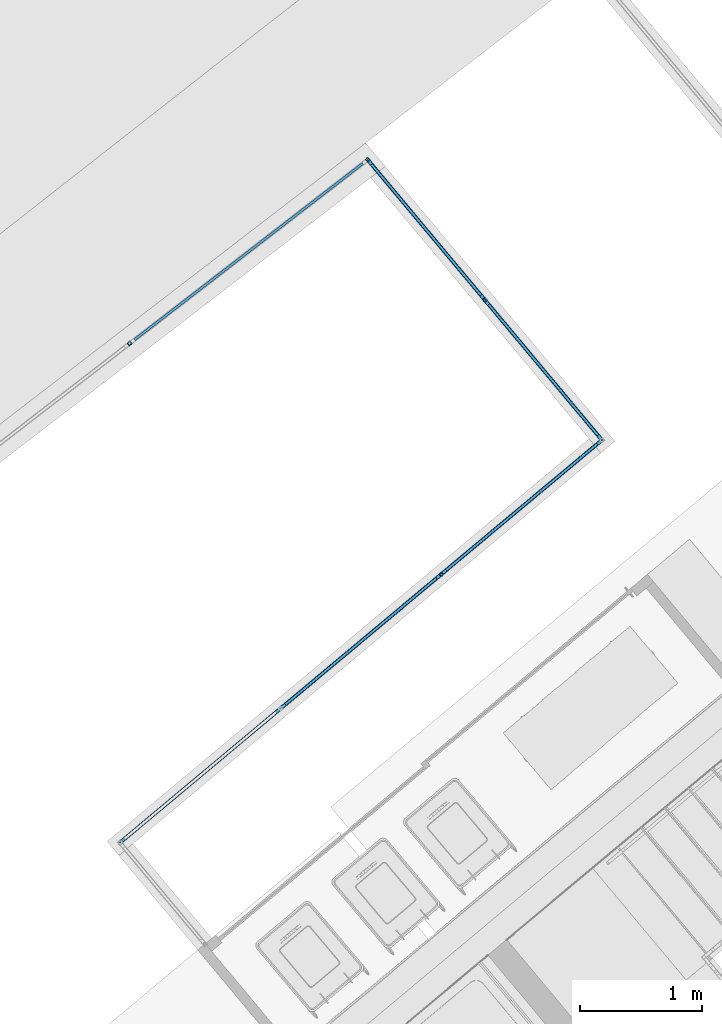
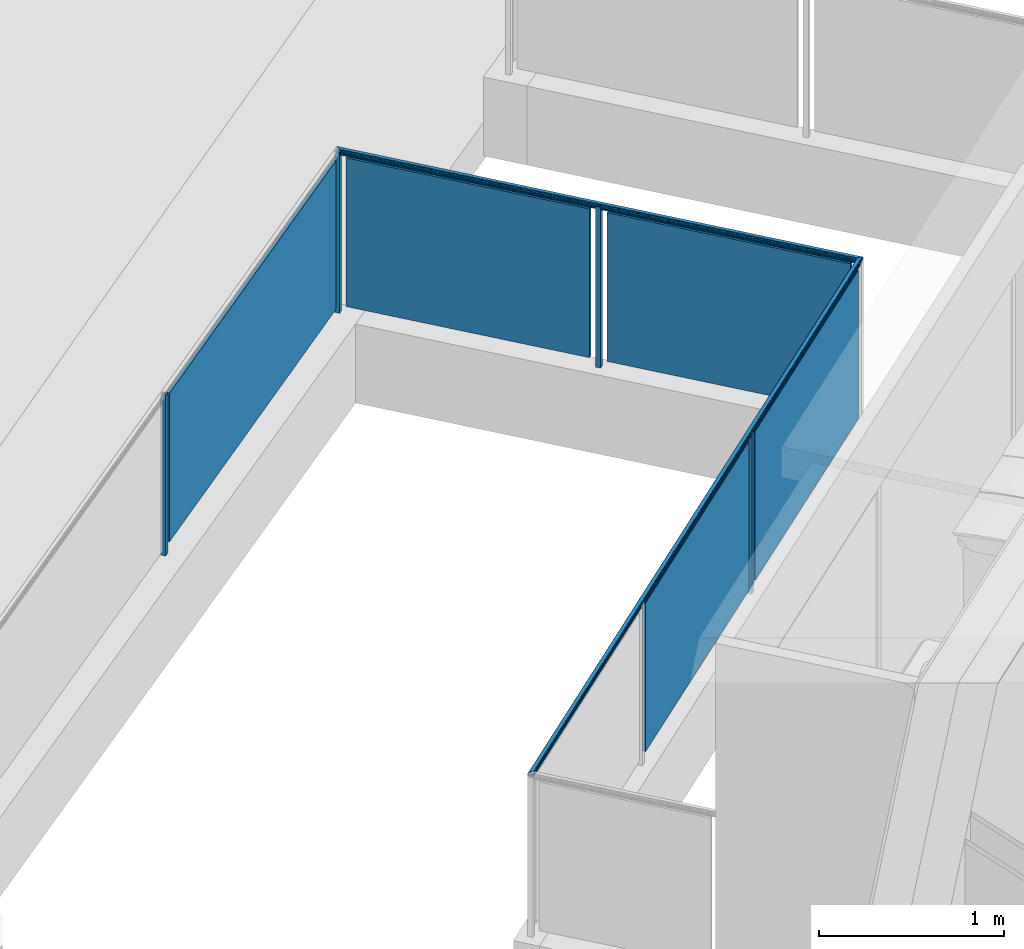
# One storey, part 31 of 75: 11 building element parts, 1 element without a shape of its own.
"""IFC4 building model written with IfcOpenShell, lengths in metres."""

import ifcopenshell
import ifcopenshell.guid

model = None  # the IFC model being written
_history = None  # IfcOwnerHistory: only IFC2X3 demands one
_inside = {}  # id of a spatial element -> (the spatial element, [elements in it])
_under = {}  # id of a project, library or spatial element -> (it, [spatial elements below it])
_declared = {}  # id of a project -> (the project, [libraries it declares])
_typed = {}  # id of a type object -> (the type object, [elements of that type])
_made_of = {}  # id of a material, layer set ... -> (it, [elements and type objects made of it])


def new_model(schema):
    """Start an empty IFC model of exactly this schema.

    Asked for "IFC4X3", IfcOpenShell would pick the latest addendum, in which some entities
    have other attributes; the version numbers below select the first issue.
    IFC2X3 requires an IfcOwnerHistory on every rooted entity: one is made here for all.
    """
    global model, _history
    if schema == "IFC4X3":
        model = ifcopenshell.file(schema_version=(4, 3, 0, 0))
    else:
        model = ifcopenshell.file(schema=schema)
    _inside.clear()
    _under.clear()
    _declared.clear()
    _typed.clear()
    _made_of.clear()
    _history = None
    if model.schema == "IFC2X3":
        org = make("IfcOrganization", Name="unknown")
        user = make(
            "IfcPersonAndOrganization",
            ThePerson=make("IfcPerson", FamilyName="unknown"),
            TheOrganization=org,
        )
        app = make(
            "IfcApplication",
            ApplicationDeveloper=org,
            Version="unknown",
            ApplicationFullName="unknown",
            ApplicationIdentifier="unknown",
        )
        _history = make(
            "IfcOwnerHistory",
            OwningUser=user,
            OwningApplication=app,
            ChangeAction="ADDED",
            CreationDate=0,
        )
    return model


def make(cls, **values):
    """One entity of the class cls with the attributes given. An attribute that is None is left unset."""
    return model.create_entity(
        cls, **{name: value for name, value in values.items() if value is not None}
    )


def entity(cls, *values):
    """Any entity or typed value of the class cls, its attributes in the order of the schema. None: left unset."""
    e = model.create_entity(cls)
    for i, value in enumerate(values):
        if value is not None:
            e[i] = value
    return e


def rooted(cls, **values):
    """An entity with a GlobalId (a new one), such as an element, a storey or a relation."""
    return make(cls, GlobalId=ifcopenshell.guid.new(), OwnerHistory=_history, **values)


def si_unit(unit_type, name, prefix=None):
    """IfcSIUnit, for example si_unit("LENGTHUNIT", "METRE", prefix="MILLI")."""
    return make("IfcSIUnit", UnitType=unit_type, Prefix=prefix, Name=name)


def converted_unit(unit_type, name, factor, base, dimensions=None, offset=None):
    """IfcConversionBasedUnit, such as the inch: factor (a typed value) times the base unit."""
    return make(
        "IfcConversionBasedUnit"
        if offset is None
        else "IfcConversionBasedUnitWithOffset",
        ConversionOffset=offset,
        Dimensions=None
        if dimensions is None
        else entity("IfcDimensionalExponents", *dimensions),
        UnitType=unit_type,
        Name=name,
        ConversionFactor=make(
            "IfcMeasureWithUnit", ValueComponent=factor, UnitComponent=base
        ),
    )


def derived_unit(unit_type, elements):
    """IfcDerivedUnit: a product of units, each with its exponent."""
    return make(
        "IfcDerivedUnit",
        Elements=[
            make("IfcDerivedUnitElement", Unit=unit, Exponent=power)
            for unit, power in elements
        ],
        UnitType=unit_type,
    )


def assignment(units):
    """IfcUnitAssignment: the units of a project."""
    return None if units is None else make("IfcUnitAssignment", Units=units)


def point(xyz):
    """IfcCartesianPoint."""
    return None if xyz is None else make("IfcCartesianPoint", Coordinates=xyz)


def direction(xyz):
    """IfcDirection."""
    return None if xyz is None else make("IfcDirection", DirectionRatios=xyz)


def frame(location, z_axis=None, x_axis=None):
    """IfcAxis2Placement3D, a coordinate frame: its origin and axes. An axis left out is left unset."""
    return make(
        "IfcAxis2Placement3D",
        Location=point(location),
        Axis=direction(z_axis),
        RefDirection=direction(x_axis),
    )


def origin_with_axes():
    """The frame at (0, 0, 0) with the z axis (0, 0, 1) and the x axis (1, 0, 0) written out."""
    return frame((0.0, 0.0, 0.0), z_axis=(0.0, 0.0, 1.0), x_axis=(1.0, 0.0, 0.0))


def place(relative_to, where):
    """IfcLocalPlacement: puts the frame where relative to a parent placement (None: the world)."""
    return make(
        "IfcLocalPlacement", PlacementRelTo=relative_to, RelativePlacement=where
    )


def context(
    kind, dimensions, precision=None, world=None, true_north=None, identifier=None
):
    """IfcGeometricRepresentationContext, for example the 3D "Model" context."""
    return make(
        "IfcGeometricRepresentationContext",
        ContextIdentifier=identifier,
        ContextType=kind,
        CoordinateSpaceDimension=dimensions,
        Precision=precision,
        WorldCoordinateSystem=world,
        TrueNorth=true_north,
    )


def subcontext(parent, identifier, kind, view, scale=None):
    """IfcGeometricRepresentationSubContext, for example "Body" below "Model"."""
    return make(
        "IfcGeometricRepresentationSubContext",
        ContextIdentifier=identifier,
        ContextType=kind,
        ParentContext=parent,
        TargetScale=scale,
        TargetView=view,
    )


def project(units=None, contexts=None):
    """IfcProject with its units and contexts."""
    return rooted(
        "IfcProject",
        Name="project",
        RepresentationContexts=contexts,
        UnitsInContext=assignment(units),
    )


def spatial(cls, under=None, at=None, **own):
    """A site, building, storey or space (cls), placed at a placement, below another one or the project."""
    s = rooted(cls, ObjectPlacement=at, **own)
    if under is not None:
        _under.setdefault(under.id(), (under, []))[1].append(s)
    return s


def point_list(points):
    """IfcCartesianPointList2D or 3D."""
    cls = (
        "IfcCartesianPointList2D" if len(points[0]) == 2 else "IfcCartesianPointList3D"
    )
    return make(cls, CoordList=points)


def polygons(points, faces, closed=None, point_numbers=None):
    """IfcPolygonalFaceSet: a face is its outer loop, then its inner loops; points numbered from 1."""
    made = []
    for loops in faces:
        if len(loops) == 1:
            made.append(make("IfcIndexedPolygonalFace", CoordIndex=loops[0]))
        else:
            made.append(
                make(
                    "IfcIndexedPolygonalFaceWithVoids",
                    CoordIndex=loops[0],
                    InnerCoordIndices=loops[1:],
                )
            )
    return make(
        "IfcPolygonalFaceSet",
        Coordinates=point_list(points),
        Closed=closed,
        Faces=made,
        PnIndex=point_numbers,
    )


def shape(context_of_items, identifier, shape_type, items):
    """IfcShapeRepresentation: the items that make up one representation, for example the "Body"."""
    return make(
        "IfcShapeRepresentation",
        ContextOfItems=context_of_items,
        RepresentationIdentifier=identifier,
        RepresentationType=shape_type,
        Items=items,
    )


def material(Name=None, Category=None):
    """IfcMaterial."""
    return make("IfcMaterial", Name=Name, Category=Category)


def made_of(thing, what):
    """Note that an element or type object is made of a material, layer set ...; save() writes the relation."""
    if what is not None:
        _made_of.setdefault(what.id(), (what, []))[1].append(thing)
    return thing


def type_object(cls, material=None, **own):
    """A type object (cls), such as IfcWallType, which elements share."""
    return made_of(rooted(cls, **own), material)


def element(
    cls,
    number,
    at=None,
    inside=None,
    cuts=None,
    type_object=None,
    material=None,
    context=None,
    identifier="Body",
    shape_type=None,
    held_by="IfcProductDefinitionShape",
    body=None,
    shapes=None,
    **own,
):
    """One element of the class cls, such as IfcWall. Its Tag is "e" and its number.

    at: its placement. inside: the storey or other place that contains it. cuts: it is an
    opening in that element (IfcRelVoidsElement). A single representation is given by context,
    identifier, shape_type and body (its items); several are given by shapes. held_by: the class
    of the entity that holds the representations. save() writes the other relations.
    """
    e = rooted(cls, Tag="e%d" % number, ObjectPlacement=at, **own)
    if body is not None:
        shapes = [shape(context, identifier, shape_type, body)]
    if shapes is not None:
        e.Representation = make(held_by, Representations=shapes)
    if inside is not None:
        _inside.setdefault(inside.id(), (inside, []))[1].append(e)
    if cuts is not None:
        rooted(
            "IfcRelVoidsElement", RelatingBuildingElement=cuts, RelatedOpeningElement=e
        )
    if type_object is not None:
        _typed.setdefault(type_object.id(), (type_object, []))[1].append(e)
    return made_of(e, material)


def aggregate(whole, parts):
    """IfcRelAggregates: a whole, such as a stair, and the parts it consists of."""
    return rooted("IfcRelAggregates", RelatingObject=whole, RelatedObjects=parts)


def save(model, path):
    """Write the relations noted so far, then the file.

    IfcRelAggregates (storeys below a building ...), IfcRelContainedInSpatialStructure (elements
    in a storey), IfcRelDefinesByType, IfcRelAssociatesMaterial and IfcRelDeclares: one each for
    every whole, place, type object, material and project.
    """
    for whole, parts in _under.values():
        aggregate(whole, parts)
    for where, things in _inside.values():
        rooted(
            "IfcRelContainedInSpatialStructure",
            RelatedElements=things,
            RelatingStructure=where,
        )
    for kind, things in _typed.values():
        rooted("IfcRelDefinesByType", RelatedObjects=things, RelatingType=kind)
    for what, things in _made_of.values():
        rooted("IfcRelAssociatesMaterial", RelatedObjects=things, RelatingMaterial=what)
    for by, libraries in _declared.values():
        rooted("IfcRelDeclares", RelatingContext=by, RelatedDefinitions=libraries)
    model.write(path)


model = new_model("IFC4")

# Units and contexts
model_context = context("Model", 3, precision=1e-05, world=origin_with_axes(), true_north=direction((0.0, 1.0)))
body_context = subcontext(model_context, "Body", "Model", "MODEL_VIEW")
ifc_project = project(units=[si_unit("LENGTHUNIT", "METRE"), si_unit("AREAUNIT", "SQUARE_METRE"), si_unit("VOLUMEUNIT", "CUBIC_METRE"), converted_unit("PLANEANGLEUNIT", "DEGREE", entity("IfcPlaneAngleMeasure", 0.0174532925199), si_unit("PLANEANGLEUNIT", "RADIAN"), dimensions=[0, 0, 0, 0, 0, 0, 0]), converted_unit("TIMEUNIT", "Year", entity("IfcTimeMeasure", 31556926.0), si_unit("TIMEUNIT", "SECOND"), dimensions=[0, 0, 1, 0, 0, 0, 0]), si_unit("MASSUNIT", "GRAM", prefix="KILO"), si_unit("THERMODYNAMICTEMPERATUREUNIT", "DEGREE_CELSIUS"), si_unit("LUMINOUSINTENSITYUNIT", "LUMEN"), si_unit("ENERGYUNIT", "JOULE", prefix="MEGA"), derived_unit("THERMALCONDUCTANCEUNIT", [(si_unit("POWERUNIT", "WATT"), 1), (si_unit("LENGTHUNIT", "METRE"), -1), (si_unit("THERMODYNAMICTEMPERATUREUNIT", "KELVIN"), -1)]), derived_unit("SPECIFICHEATCAPACITYUNIT", [(si_unit("ENERGYUNIT", "JOULE"), 1), (si_unit("MASSUNIT", "GRAM", prefix="KILO"), -1), (si_unit("THERMODYNAMICTEMPERATUREUNIT", "KELVIN"), -1)]), derived_unit("MASSDENSITYUNIT", [(si_unit("MASSUNIT", "GRAM", prefix="KILO"), 1), (si_unit("VOLUMEUNIT", "CUBIC_METRE"), -1)])], contexts=[model_context])

# Site, building, storey
site_placement = place(None, frame((-0.00153261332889, -0.00661245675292, 0.0), z_axis=(0.0, 0.0, 1.0), x_axis=(1.0, 0.0, 0.0)))
site = spatial("IfcSite", under=ifc_project, at=site_placement, Name="Gelände", CompositionType="ELEMENT")
building_placement = place(site_placement, origin_with_axes())
building = spatial("IfcBuilding", under=site, at=building_placement, Name="Gebäude", CompositionType="ELEMENT")
storey_placement = place(building_placement, frame((0.0, 0.0, -0.22), z_axis=(0.0, 0.0, 1.0), x_axis=(1.0, 0.0, 0.0)))
storey = spatial("IfcBuildingStorey", under=building, at=storey_placement, Name="EG", CompositionType="ELEMENT", Elevation=-0.22)

# Railing, building element parts
railing_type = type_object("IfcRailingType", Name="Geländerart", PredefinedType="NOTDEFINED")
railing_placement = place(storey_placement, frame((-6.36726458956, 22.4448248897, 0.523948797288), z_axis=(0.0, 0.0, 1.0), x_axis=(1.0, 0.0, 0.0)))
railing = element("IfcRailing", 1, at=railing_placement, inside=storey, type_object=railing_type, Name="Geländer - 001", PredefinedType="NOTDEFINED")
ifc_material_1 = material(Name="Aluminium")
building_element_part_1_placement = place(railing_placement, origin_with_axes())
building_element_part_1 = element("IfcBuildingElementPart", 2, at=building_element_part_1_placement, material=ifc_material_1, Name="Aluminium", PredefinedType="NOTDEFINED", context=body_context, shape_type="Tessellation", body=[
    polygons([(1.39638766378, 6.51133462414, 0.0), (1.37336668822, 6.49209833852, 0.0), (1.37336668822, 6.49209833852, 1.06), (1.39638766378, 6.51133462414, 1.06), (1.4156239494, 6.48831364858, 0.0), (1.39260297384, 6.46907736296, 0.0), (1.39575688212, 6.50429174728, 0.0), (1.38040956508, 6.49146755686, 0.0), (1.3932337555, 6.47612023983, 0.0), (1.40858107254, 6.48894443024, 0.0), (1.39260297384, 6.46907736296, 1.06), (1.4156239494, 6.48831364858, 1.06), (1.39575688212, 6.50429174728, 1.06), (1.40858107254, 6.48894443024, 1.06), (1.3932337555, 6.47612023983, 1.06), (1.38040956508, 6.49146755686, 1.06)], [[[1, 2, 3, 4]], [[1, 5, 6, 2], [7, 8, 9, 10]], [[2, 6, 11, 3]], [[4, 3, 11, 12], [13, 14, 15, 16]], [[5, 1, 4, 12]], [[6, 5, 12, 11]], [[8, 7, 13, 16]], [[9, 8, 16, 15]], [[10, 9, 15, 14]], [[7, 10, 14, 13]]], closed=True),
])
building_element_part_2_placement = place(railing_placement, origin_with_axes())
building_element_part_2 = element("IfcBuildingElementPart", 3, at=building_element_part_2_placement, material=ifc_material_1, Name="Aluminium", PredefinedType="NOTDEFINED", context=body_context, shape_type="Tessellation", body=[
    polygons([(-0.62523880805, 0.881025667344, 1.07636363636), (-0.624907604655, 0.880995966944, 1.07634109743), (3.33287390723, 4.18662932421, 1.07634109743), (3.33254270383, 4.18665902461, 1.07636363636), (-0.62523880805, 0.881025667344, 1.07818181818), (-0.62532585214, 0.881033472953, 1.07820551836), (-0.629970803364, 0.881450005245, 1.0792391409), (-0.634682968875, 0.881872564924, 1.07983921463), (-0.639426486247, 0.882297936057, 1.08000117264), (-0.639516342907, 0.882305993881, 1.08), (-0.639606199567, 0.882314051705, 1.08000117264), (-0.64434971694, 0.882739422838, 1.07983921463), (-0.649061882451, 0.883161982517, 1.0792391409), (-0.653706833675, 0.883578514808, 1.07820551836), (-0.653793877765, 0.883586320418, 1.07818181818), (-0.653793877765, 0.883586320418, 1.07636363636), (-0.65412508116, 0.883616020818, 1.07634109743), (-0.655351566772, 0.883726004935, 1.0761115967), (-0.656521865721, 0.883830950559, 1.07565956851), (-0.657600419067, 0.883927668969, 1.07499874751), (-0.658554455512, 0.884013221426, 1.0741492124), (-0.659354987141, 0.88408500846, 1.07313677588), (-0.659977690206, 0.88414084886, 1.07199220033), (-0.660403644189, 0.884179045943, 1.07075026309), (-0.660619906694, 0.884198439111, 1.06944869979), (-0.660619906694, 0.884198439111, 1.06812705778), (-0.660403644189, 0.884179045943, 1.06682549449), (-0.659977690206, 0.88414084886, 1.06558355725), (-0.659354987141, 0.88408500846, 1.06443898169), (-0.658554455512, 0.884013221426, 1.06342654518), (-0.657600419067, 0.883927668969, 1.06257701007), (-0.656521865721, 0.883830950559, 1.06191618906), (-0.655351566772, 0.883726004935, 1.06146416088), (-0.65412508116, 0.883616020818, 1.06123466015), (-0.653793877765, 0.883586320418, 1.06121212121), (-0.653793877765, 0.883586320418, 1.05818181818), (-0.653569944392, 0.883566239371, 1.05810011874), (-0.652526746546, 0.883472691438, 1.05758389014), (-0.651583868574, 0.883388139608, 1.05688326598), (-0.650769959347, 0.883315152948, 1.05601953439), (-0.650109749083, 0.88325594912, 1.05501893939), (-0.649623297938, 0.883212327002, 1.05391188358), (-0.649325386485, 0.883185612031, 1.05273200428), (-0.649225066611, 0.883176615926, 1.05151515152), (-0.649325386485, 0.883185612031, 1.05029829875), (-0.649623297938, 0.883212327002, 1.04911841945), (-0.650109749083, 0.88325594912, 1.04801136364), (-0.650769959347, 0.883315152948, 1.04701076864), (-0.651583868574, 0.883388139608, 1.04614703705), (-0.652526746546, 0.883472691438, 1.04544641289), (-0.653569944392, 0.883566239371, 1.04493018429), (-0.653793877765, 0.883586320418, 1.04484848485), (-0.653793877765, 0.883586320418, 1.04), (-0.62523880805, 0.881025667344, 1.04), (-0.62523880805, 0.881025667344, 1.04484848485), (-0.625462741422, 0.881045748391, 1.04493018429), (-0.626505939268, 0.881139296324, 1.04544641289), (-0.62744881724, 0.881223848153, 1.04614703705), (-0.628262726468, 0.881296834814, 1.04701076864), (-0.628922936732, 0.881356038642, 1.04801136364), (-0.629409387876, 0.88139966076, 1.04911841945), (-0.62970729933, 0.881426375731, 1.05029829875), (-0.629807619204, 0.881435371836, 1.05151515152), (-0.62970729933, 0.881426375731, 1.05273200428), (-0.629409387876, 0.88139966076, 1.05391188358), (-0.628922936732, 0.881356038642, 1.05501893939), (-0.628262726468, 0.881296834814, 1.05601953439), (-0.62744881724, 0.881223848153, 1.05688326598), (-0.626505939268, 0.881139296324, 1.05758389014), (-0.625462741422, 0.881045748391, 1.05810011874), (-0.62523880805, 0.881025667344, 1.05818181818), (-0.62523880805, 0.881025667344, 1.06121212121), (-0.624907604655, 0.880995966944, 1.06123466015), (-0.623681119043, 0.880885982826, 1.06146416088), (-0.622510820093, 0.880781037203, 1.06191618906), (-0.621432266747, 0.880684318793, 1.06257701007), (-0.620478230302, 0.880598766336, 1.06342654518), (-0.619677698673, 0.880526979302, 1.06443898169), (-0.619054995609, 0.880471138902, 1.06558355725), (-0.618629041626, 0.880432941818, 1.06682549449), (-0.618412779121, 0.880413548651, 1.06812705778), (-0.618412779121, 0.880413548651, 1.06944869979), (-0.618629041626, 0.880432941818, 1.07075026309), (-0.619054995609, 0.880471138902, 1.07199220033), (-0.619677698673, 0.880526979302, 1.07313677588), (-0.620478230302, 0.880598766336, 1.0741492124), (-0.621432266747, 0.880684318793, 1.07499874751), (-0.622510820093, 0.880781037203, 1.07565956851), (-0.623681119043, 0.880885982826, 1.0761115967), (3.33410039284, 4.18651934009, 1.0761115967), (3.33527069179, 4.18641439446, 1.07565956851), (3.33634924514, 4.18631767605, 1.07499874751), (3.33730328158, 4.1862321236, 1.0741492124), (3.33810381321, 4.18616033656, 1.07313677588), (3.33872651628, 4.18610449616, 1.07199220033), (3.33915247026, 4.18606629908, 1.07075026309), (3.33936873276, 4.18604690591, 1.06944869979), (3.33936873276, 4.18604690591, 1.06812705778), (3.33915247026, 4.18606629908, 1.06682549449), (3.33872651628, 4.18610449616, 1.06558355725), (3.33810381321, 4.18616033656, 1.06443898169), (3.33730328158, 4.1862321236, 1.06342654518), (3.33634924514, 4.18631767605, 1.06257701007), (3.33527069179, 4.18641439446, 1.06191618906), (3.33410039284, 4.18651934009, 1.06146416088), (3.33287390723, 4.18662932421, 1.06123466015), (3.33254270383, 4.18665902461, 1.06121212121), (3.33254270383, 4.18665902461, 1.05818181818), (3.33231877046, 4.18667910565, 1.05810011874), (3.33127557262, 4.18677265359, 1.05758389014), (3.33033269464, 4.18685720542, 1.05688326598), (3.32951878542, 4.18693019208, 1.05601953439), (3.32885857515, 4.1869893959, 1.05501893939), (3.32837212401, 4.18703301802, 1.05391188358), (3.32807421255, 4.18705973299, 1.05273200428), (3.32797389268, 4.1870687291, 1.05151515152), (3.32807421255, 4.18705973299, 1.05029829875), (3.32837212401, 4.18703301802, 1.04911841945), (3.32885857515, 4.1869893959, 1.04801136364), (3.32951878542, 4.18693019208, 1.04701076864), (3.33033269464, 4.18685720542, 1.04614703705), (3.33127557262, 4.18677265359, 1.04544641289), (3.33231877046, 4.18667910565, 1.04493018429), (3.33254270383, 4.18665902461, 1.04484848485), (3.33254270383, 4.18665902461, 1.04), (3.30398763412, 4.18921967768, 1.04), (3.30398763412, 4.18921967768, 1.04484848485), (3.30421156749, 4.18919959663, 1.04493018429), (3.30525476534, 4.1891060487, 1.04544641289), (3.30619764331, 4.18902149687, 1.04614703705), (3.30701155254, 4.18894851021, 1.04701076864), (3.3076717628, 4.18888930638, 1.04801136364), (3.30815821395, 4.18884568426, 1.04911841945), (3.3084561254, 4.18881896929, 1.05029829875), (3.30855644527, 4.18880997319, 1.05151515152), (3.3084561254, 4.18881896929, 1.05273200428), (3.30815821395, 4.18884568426, 1.05391188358), (3.3076717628, 4.18888930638, 1.05501893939), (3.30701155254, 4.18894851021, 1.05601953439), (3.30619764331, 4.18902149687, 1.05688326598), (3.30525476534, 4.1891060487, 1.05758389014), (3.30421156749, 4.18919959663, 1.05810011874), (3.30398763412, 4.18921967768, 1.05818181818), (3.30398763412, 4.18921967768, 1.06121212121), (3.30365643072, 4.18924937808, 1.06123466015), (3.30242994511, 4.1893593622, 1.06146416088), (3.30125964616, 4.18946430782, 1.06191618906), (3.30018109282, 4.18956102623, 1.06257701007), (3.29922705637, 4.18964657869, 1.06342654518), (3.29842652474, 4.18971836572, 1.06443898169), (3.29780382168, 4.18977420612, 1.06558355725), (3.2973778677, 4.1898124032, 1.06682549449), (3.29716160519, 4.18983179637, 1.06812705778), (3.29716160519, 4.18983179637, 1.06944869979), (3.2973778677, 4.1898124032, 1.07075026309), (3.29780382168, 4.18977420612, 1.07199220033), (3.29842652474, 4.18971836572, 1.07313677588), (3.29922705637, 4.18964657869, 1.0741492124), (3.30018109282, 4.18956102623, 1.07499874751), (3.30125964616, 4.18946430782, 1.07565956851), (3.30242994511, 4.1893593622, 1.0761115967), (3.30365643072, 4.18924937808, 1.07634109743), (3.30398763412, 4.18921967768, 1.07636363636), (3.30398763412, 4.18921967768, 1.07818181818), (3.30407467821, 4.18921187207, 1.07820551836), (3.30871962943, 4.18879533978, 1.0792391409), (3.31343179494, 4.1883727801, 1.07983921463), (3.31817531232, 4.18794740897, 1.08000117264), (3.31826516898, 4.18793935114, 1.08), (3.31835502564, 4.18793129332, 1.08000117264), (3.32309854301, 4.18750592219, 1.07983921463), (3.32781070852, 4.18708336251, 1.0792391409), (3.33245565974, 4.18666683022, 1.07820551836), (3.33254270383, 4.18665902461, 1.07818181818)], [[[1, 2, 3, 4]], [[1, 5, 6, 7, 8, 9, 10, 11, 12, 13, 14, 15, 16, 17, 18, 19, 20, 21, 22, 23, 24, 25, 26, 27, 28, 29, 30, 31, 32, 33, 34, 35, 36, 37, 38, 39, 40, 41, 42, 43, 44, 45, 46, 47, 48, 49, 50, 51, 52, 53, 54, 55, 56, 57, 58, 59, 60, 61, 62, 63, 64, 65, 66, 67, 68, 69, 70, 71, 72, 73, 74, 75, 76, 77, 78, 79, 80, 81, 82, 83, 84, 85, 86, 87, 88, 89, 2]], [[2, 89, 90, 3]], [[4, 3, 90, 91, 92, 93, 94, 95, 96, 97, 98, 99, 100, 101, 102, 103, 104, 105, 106, 107, 108, 109, 110, 111, 112, 113, 114, 115, 116, 117, 118, 119, 120, 121, 122, 123, 124, 125, 126, 127, 128, 129, 130, 131, 132, 133, 134, 135, 136, 137, 138, 139, 140, 141, 142, 143, 144, 145, 146, 147, 148, 149, 150, 151, 152, 153, 154, 155, 156, 157, 158, 159, 160, 161, 162, 163, 164, 165, 166, 167, 168, 169, 170, 171, 172, 173, 174]], [[5, 1, 4, 174]], [[6, 5, 174, 173]], [[7, 6, 173, 172]], [[8, 7, 172, 171]], [[9, 8, 171, 170]], [[10, 9, 170, 169]], [[11, 10, 169, 168]], [[12, 11, 168, 167]], [[13, 12, 167, 166]], [[14, 13, 166, 165]], [[15, 14, 165, 164]], [[16, 15, 164, 163]], [[17, 16, 163, 162]], [[18, 17, 162, 161]], [[19, 18, 161, 160]], [[20, 19, 160, 159]], [[21, 20, 159, 158]], [[22, 21, 158, 157]], [[23, 22, 157, 156]], [[24, 23, 156, 155]], [[25, 24, 155, 154]], [[26, 25, 154, 153]], [[27, 26, 153, 152]], [[28, 27, 152, 151]], [[29, 28, 151, 150]], [[30, 29, 150, 149]], [[31, 30, 149, 148]], [[32, 31, 148, 147]], [[33, 32, 147, 146]], [[34, 33, 146, 145]], [[35, 34, 145, 144]], [[36, 35, 144, 143]], [[37, 36, 143, 142]], [[38, 37, 142, 141]], [[39, 38, 141, 140]], [[40, 39, 140, 139]], [[41, 40, 139, 138]], [[42, 41, 138, 137]], [[43, 42, 137, 136]], [[44, 43, 136, 135]], [[45, 44, 135, 134]], [[46, 45, 134, 133]], [[47, 46, 133, 132]], [[48, 47, 132, 131]], [[49, 48, 131, 130]], [[50, 49, 130, 129]], [[51, 50, 129, 128]], [[52, 51, 128, 127]], [[53, 52, 127, 126]], [[54, 53, 126, 125]], [[55, 54, 125, 124]], [[56, 55, 124, 123]], [[57, 56, 123, 122]], [[58, 57, 122, 121]], [[59, 58, 121, 120]], [[60, 59, 120, 119]], [[61, 60, 119, 118]], [[62, 61, 118, 117]], [[63, 62, 117, 116]], [[64, 63, 116, 115]], [[65, 64, 115, 114]], [[66, 65, 114, 113]], [[67, 66, 113, 112]], [[68, 67, 112, 111]], [[69, 68, 111, 110]], [[70, 69, 110, 109]], [[71, 70, 109, 108]], [[72, 71, 108, 107]], [[73, 72, 107, 106]], [[74, 73, 106, 105]], [[75, 74, 105, 104]], [[76, 75, 104, 103]], [[77, 76, 103, 102]], [[78, 77, 102, 101]], [[79, 78, 101, 100]], [[80, 79, 100, 99]], [[81, 80, 99, 98]], [[82, 81, 98, 97]], [[83, 82, 97, 96]], [[84, 83, 96, 95]], [[85, 84, 95, 94]], [[86, 85, 94, 93]], [[87, 86, 93, 92]], [[88, 87, 92, 91]], [[89, 88, 91, 90]]], closed=True),
])
ifc_material_2 = material(Name="Zaun")
building_element_part_3_placement = place(railing_placement, origin_with_axes())
building_element_part_3 = element("IfcBuildingElementPart", 4, at=building_element_part_3_placement, material=ifc_material_2, Name="Zaun", PredefinedType="NOTDEFINED", context=body_context, shape_type="Tessellation", body=[
    polygons([(1.95421890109, 3.0616846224, 0.05), (0.711709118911, 2.02391086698, 0.05), (0.711709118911, 2.02391086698, 1.03), (1.95421890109, 3.0616846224, 1.03), (0.724529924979, 2.00856072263, 0.05), (1.96703970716, 3.04633447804, 0.05), (0.724529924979, 2.00856072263, 1.03), (1.96703970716, 3.04633447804, 1.03)], [[[1, 2, 3, 4]], [[5, 2, 1, 6]], [[7, 3, 2, 5]], [[4, 3, 7, 8]], [[1, 4, 8, 6]], [[7, 5, 6, 8]]], closed=True),
])
building_element_part_4_placement = place(railing_placement, origin_with_axes())
building_element_part_4 = element("IfcBuildingElementPart", 5, at=building_element_part_4_placement, material=ifc_material_1, Name="Aluminium", PredefinedType="NOTDEFINED", context=body_context, shape_type="Tessellation", body=[
    polygons([(2.02013287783, 3.08416456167, 0.0), (2.00090166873, 3.10718977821, 0.0), (2.00090166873, 3.10718977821, 1.06), (2.02013287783, 3.08416456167, 1.06), (1.9971076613, 3.06493335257, 0.0), (1.9778764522, 3.08795856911, 0.0), (2.01309014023, 3.08479689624, 0.0), (2.00026933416, 3.1001470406, 0.0), (1.9849191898, 3.08732623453, 0.0), (1.99773999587, 3.07197609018, 0.0), (1.9778764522, 3.08795856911, 1.06), (1.9971076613, 3.06493335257, 1.06), (2.01309014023, 3.08479689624, 1.06), (1.99773999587, 3.07197609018, 1.06), (1.9849191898, 3.08732623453, 1.06), (2.00026933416, 3.1001470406, 1.06)], [[[1, 2, 3, 4]], [[1, 5, 6, 2], [7, 8, 9, 10]], [[2, 6, 11, 3]], [[4, 3, 11, 12], [13, 14, 15, 16]], [[5, 1, 4, 12]], [[6, 5, 12, 11]], [[8, 7, 13, 16]], [[9, 8, 16, 15]], [[10, 9, 15, 14]], [[7, 10, 14, 13]]], closed=True),
])
building_element_part_5_placement = place(railing_placement, origin_with_axes())
building_element_part_5 = element("IfcBuildingElementPart", 6, at=building_element_part_5_placement, material=ifc_material_2, Name="Zaun", PredefinedType="NOTDEFINED", context=body_context, shape_type="Tessellation", body=[
    polygons([(3.27347940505, 4.16356240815, 0.05), (2.03096962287, 3.12578865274, 0.05), (2.03096962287, 3.12578865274, 1.03), (3.27347940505, 4.16356240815, 1.03), (2.04379042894, 3.11043850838, 0.05), (3.28630021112, 4.14821226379, 0.05), (2.04379042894, 3.11043850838, 1.03), (3.28630021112, 4.14821226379, 1.03)], [[[1, 2, 3, 4]], [[5, 2, 1, 6]], [[7, 3, 2, 5]], [[4, 3, 7, 8]], [[1, 4, 8, 6]], [[7, 5, 6, 8]]], closed=True),
])
building_element_part_6_placement = place(railing_placement, origin_with_axes())
building_element_part_6 = element("IfcBuildingElementPart", 7, at=building_element_part_6_placement, material=ifc_material_1, Name="Aluminium", PredefinedType="NOTDEFINED", context=body_context, shape_type="Tessellation", body=[
    polygons([(3.33254270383, 4.18665902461, 1.07636363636), (3.33287390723, 4.18662932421, 1.07634109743), (1.39605547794, 6.50451182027, 1.07634109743), (1.39602010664, 6.50418748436, 1.07636363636), (3.33254270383, 4.18665902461, 1.07818181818), (3.33245565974, 4.18666683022, 1.07820551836), (3.32781070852, 4.18708336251, 1.0792391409), (3.32309854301, 4.18750592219, 1.07983921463), (3.31835502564, 4.18793129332, 1.08000117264), (3.31826516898, 4.18793935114, 1.08), (3.31817531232, 4.18794740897, 1.08000117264), (3.31343179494, 4.1883727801, 1.07983921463), (3.30871962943, 4.18879533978, 1.0792391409), (3.30407467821, 4.18921187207, 1.07820551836), (3.30398763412, 4.18921967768, 1.07818181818), (3.30398763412, 4.18921967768, 1.07636363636), (3.30365643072, 4.18924937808, 1.07634109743), (3.30242994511, 4.1893593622, 1.0761115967), (3.30125964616, 4.18946430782, 1.07565956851), (3.30018109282, 4.18956102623, 1.07499874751), (3.29922705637, 4.18964657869, 1.0741492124), (3.29842652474, 4.18971836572, 1.07313677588), (3.29780382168, 4.18977420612, 1.07199220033), (3.2973778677, 4.1898124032, 1.07075026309), (3.29716160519, 4.18983179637, 1.06944869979), (3.29716160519, 4.18983179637, 1.06812705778), (3.2973778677, 4.1898124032, 1.06682549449), (3.29780382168, 4.18977420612, 1.06558355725), (3.29842652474, 4.18971836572, 1.06443898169), (3.29922705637, 4.18964657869, 1.06342654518), (3.30018109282, 4.18956102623, 1.06257701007), (3.30125964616, 4.18946430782, 1.06191618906), (3.30242994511, 4.1893593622, 1.06146416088), (3.30365643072, 4.18924937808, 1.06123466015), (3.30398763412, 4.18921967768, 1.06121212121), (3.30398763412, 4.18921967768, 1.05818181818), (3.30421156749, 4.18919959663, 1.05810011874), (3.30525476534, 4.1891060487, 1.05758389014), (3.30619764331, 4.18902149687, 1.05688326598), (3.30701155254, 4.18894851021, 1.05601953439), (3.3076717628, 4.18888930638, 1.05501893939), (3.30815821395, 4.18884568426, 1.05391188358), (3.3084561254, 4.18881896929, 1.05273200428), (3.30855644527, 4.18880997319, 1.05151515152), (3.3084561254, 4.18881896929, 1.05029829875), (3.30815821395, 4.18884568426, 1.04911841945), (3.3076717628, 4.18888930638, 1.04801136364), (3.30701155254, 4.18894851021, 1.04701076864), (3.30619764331, 4.18902149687, 1.04614703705), (3.30525476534, 4.1891060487, 1.04544641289), (3.30421156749, 4.18919959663, 1.04493018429), (3.30398763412, 4.18921967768, 1.04484848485), (3.30398763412, 4.18921967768, 1.04), (3.33254270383, 4.18665902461, 1.04), (3.33254270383, 4.18665902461, 1.04484848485), (3.33231877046, 4.18667910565, 1.04493018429), (3.33127557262, 4.18677265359, 1.04544641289), (3.33033269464, 4.18685720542, 1.04614703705), (3.32951878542, 4.18693019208, 1.04701076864), (3.32885857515, 4.1869893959, 1.04801136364), (3.32837212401, 4.18703301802, 1.04911841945), (3.32807421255, 4.18705973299, 1.05029829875), (3.32797389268, 4.1870687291, 1.05151515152), (3.32807421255, 4.18705973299, 1.05273200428), (3.32837212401, 4.18703301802, 1.05391188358), (3.32885857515, 4.1869893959, 1.05501893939), (3.32951878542, 4.18693019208, 1.05601953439), (3.33033269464, 4.18685720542, 1.05688326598), (3.33127557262, 4.18677265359, 1.05758389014), (3.33231877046, 4.18667910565, 1.05810011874), (3.33254270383, 4.18665902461, 1.05818181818), (3.33254270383, 4.18665902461, 1.06121212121), (3.33287390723, 4.18662932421, 1.06123466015), (3.33410039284, 4.18651934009, 1.06146416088), (3.33527069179, 4.18641439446, 1.06191618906), (3.33634924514, 4.18631767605, 1.06257701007), (3.33730328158, 4.1862321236, 1.06342654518), (3.33810381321, 4.18616033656, 1.06443898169), (3.33872651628, 4.18610449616, 1.06558355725), (3.33915247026, 4.18606629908, 1.06682549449), (3.33936873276, 4.18604690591, 1.06812705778), (3.33936873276, 4.18604690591, 1.06944869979), (3.33915247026, 4.18606629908, 1.07075026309), (3.33872651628, 4.18610449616, 1.07199220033), (3.33810381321, 4.18616033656, 1.07313677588), (3.33730328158, 4.1862321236, 1.0741492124), (3.33634924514, 4.18631767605, 1.07499874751), (3.33527069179, 4.18641439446, 1.07565956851), (3.33410039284, 4.18651934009, 1.0761115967), (1.39618646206, 6.50571287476, 1.0761115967), (1.39631144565, 6.50685890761, 1.07565956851), (1.39642663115, 6.5079150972, 1.07499874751), (1.39652851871, 6.50884935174, 1.0741492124), (1.39661401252, 6.50963328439, 1.07313677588), (1.3966805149, 6.51024307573, 1.07199220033), (1.39672600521, 6.51066019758, 1.07075026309), (1.39674910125, 6.51087197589, 1.06944869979), (1.39674910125, 6.51087197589, 1.06812705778), (1.39672600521, 6.51066019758, 1.06682549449), (1.3966805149, 6.51024307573, 1.06558355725), (1.39661401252, 6.50963328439, 1.06443898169), (1.39652851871, 6.50884935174, 1.06342654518), (1.39642663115, 6.5079150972, 1.06257701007), (1.39631144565, 6.50685890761, 1.06191618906), (1.39618646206, 6.50571287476, 1.06146416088), (1.39605547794, 6.50451182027, 1.06123466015), (1.39602010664, 6.50418748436, 1.06121212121), (1.39602010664, 6.50418748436, 1.05818181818), (1.39599619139, 6.50396819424, 1.05810011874), (1.39588478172, 6.50294662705, 1.05758389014), (1.39578408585, 6.50202329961, 1.05688326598), (1.39569716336, 6.50122626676, 1.05601953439), (1.39562665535, 6.50057974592, 1.05501893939), (1.39557470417, 6.50010338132, 1.05391188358), (1.39554288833, 6.49981164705, 1.05273200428), (1.39553217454, 6.4997134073, 1.05151515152), (1.39554288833, 6.49981164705, 1.05029829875), (1.39557470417, 6.50010338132, 1.04911841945), (1.39562665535, 6.50057974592, 1.04801136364), (1.39569716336, 6.50122626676, 1.04701076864), (1.39578408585, 6.50202329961, 1.04614703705), (1.39588478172, 6.50294662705, 1.04544641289), (1.39599619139, 6.50396819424, 1.04493018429), (1.39602010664, 6.50418748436, 1.04484848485), (1.39602010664, 6.50418748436, 1.04), (1.39297053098, 6.47622450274, 1.04), (1.39297053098, 6.47622450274, 1.04484848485), (1.39299444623, 6.47644379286, 1.04493018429), (1.3931058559, 6.47746536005, 1.04544641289), (1.39320655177, 6.47838868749, 1.04614703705), (1.39329347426, 6.47918572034, 1.04701076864), (1.39336398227, 6.47983224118, 1.04801136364), (1.39341593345, 6.48030860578, 1.04911841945), (1.39344774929, 6.48060034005, 1.05029829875), (1.39345846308, 6.4806985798, 1.05151515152), (1.39344774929, 6.48060034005, 1.05273200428), (1.39341593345, 6.48030860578, 1.05391188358), (1.39336398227, 6.47983224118, 1.05501893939), (1.39329347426, 6.47918572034, 1.05601953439), (1.39320655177, 6.47838868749, 1.05688326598), (1.3931058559, 6.47746536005, 1.05758389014), (1.39299444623, 6.47644379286, 1.05810011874), (1.39297053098, 6.47622450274, 1.05818181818), (1.39297053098, 6.47622450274, 1.06121212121), (1.39293515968, 6.47590016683, 1.06123466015), (1.39280417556, 6.47469911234, 1.06146416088), (1.39267919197, 6.47355307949, 1.06191618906), (1.39256400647, 6.4724968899, 1.06257701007), (1.39246211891, 6.47156263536, 1.06342654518), (1.3923766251, 6.47077870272, 1.06443898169), (1.39231012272, 6.47016891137, 1.06558355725), (1.39226463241, 6.46975178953, 1.06682549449), (1.39224153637, 6.46954001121, 1.06812705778), (1.39224153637, 6.46954001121, 1.06944869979), (1.39226463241, 6.46975178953, 1.07075026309), (1.39231012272, 6.47016891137, 1.07199220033), (1.3923766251, 6.47077870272, 1.07313677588), (1.39246211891, 6.47156263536, 1.0741492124), (1.39256400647, 6.4724968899, 1.07499874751), (1.39267919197, 6.47355307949, 1.07565956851), (1.39280417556, 6.47469911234, 1.0761115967), (1.39293515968, 6.47590016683, 1.07634109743), (1.39297053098, 6.47622450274, 1.07636363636), (1.39297053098, 6.47622450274, 1.07818181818), (1.39297982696, 6.47630974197, 1.07820551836), (1.39347589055, 6.48085838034, 1.0792391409), (1.39397913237, 6.48547283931, 1.07983921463), (1.39448572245, 6.49011800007, 1.08000117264), (1.39449531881, 6.49020599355, 1.08), (1.39450491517, 6.49029398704, 1.08000117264), (1.39501150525, 6.49493914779, 1.07983921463), (1.39551474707, 6.49955360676, 1.0792391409), (1.39601081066, 6.50410224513, 1.07820551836), (1.39602010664, 6.50418748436, 1.07818181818)], [[[1, 2, 3, 4]], [[1, 5, 6, 7, 8, 9, 10, 11, 12, 13, 14, 15, 16, 17, 18, 19, 20, 21, 22, 23, 24, 25, 26, 27, 28, 29, 30, 31, 32, 33, 34, 35, 36, 37, 38, 39, 40, 41, 42, 43, 44, 45, 46, 47, 48, 49, 50, 51, 52, 53, 54, 55, 56, 57, 58, 59, 60, 61, 62, 63, 64, 65, 66, 67, 68, 69, 70, 71, 72, 73, 74, 75, 76, 77, 78, 79, 80, 81, 82, 83, 84, 85, 86, 87, 88, 89, 2]], [[2, 89, 90, 3]], [[4, 3, 90, 91, 92, 93, 94, 95, 96, 97, 98, 99, 100, 101, 102, 103, 104, 105, 106, 107, 108, 109, 110, 111, 112, 113, 114, 115, 116, 117, 118, 119, 120, 121, 122, 123, 124, 125, 126, 127, 128, 129, 130, 131, 132, 133, 134, 135, 136, 137, 138, 139, 140, 141, 142, 143, 144, 145, 146, 147, 148, 149, 150, 151, 152, 153, 154, 155, 156, 157, 158, 159, 160, 161, 162, 163, 164, 165, 166, 167, 168, 169, 170, 171, 172, 173, 174]], [[5, 1, 4, 174]], [[6, 5, 174, 173]], [[7, 6, 173, 172]], [[8, 7, 172, 171]], [[9, 8, 171, 170]], [[10, 9, 170, 169]], [[11, 10, 169, 168]], [[12, 11, 168, 167]], [[13, 12, 167, 166]], [[14, 13, 166, 165]], [[15, 14, 165, 164]], [[16, 15, 164, 163]], [[17, 16, 163, 162]], [[18, 17, 162, 161]], [[19, 18, 161, 160]], [[20, 19, 160, 159]], [[21, 20, 159, 158]], [[22, 21, 158, 157]], [[23, 22, 157, 156]], [[24, 23, 156, 155]], [[25, 24, 155, 154]], [[26, 25, 154, 153]], [[27, 26, 153, 152]], [[28, 27, 152, 151]], [[29, 28, 151, 150]], [[30, 29, 150, 149]], [[31, 30, 149, 148]], [[32, 31, 148, 147]], [[33, 32, 147, 146]], [[34, 33, 146, 145]], [[35, 34, 145, 144]], [[36, 35, 144, 143]], [[37, 36, 143, 142]], [[38, 37, 142, 141]], [[39, 38, 141, 140]], [[40, 39, 140, 139]], [[41, 40, 139, 138]], [[42, 41, 138, 137]], [[43, 42, 137, 136]], [[44, 43, 136, 135]], [[45, 44, 135, 134]], [[46, 45, 134, 133]], [[47, 46, 133, 132]], [[48, 47, 132, 131]], [[49, 48, 131, 130]], [[50, 49, 130, 129]], [[51, 50, 129, 128]], [[52, 51, 128, 127]], [[53, 52, 127, 126]], [[54, 53, 126, 125]], [[55, 54, 125, 124]], [[56, 55, 124, 123]], [[57, 56, 123, 122]], [[58, 57, 122, 121]], [[59, 58, 121, 120]], [[60, 59, 120, 119]], [[61, 60, 119, 118]], [[62, 61, 118, 117]], [[63, 62, 117, 116]], [[64, 63, 116, 115]], [[65, 64, 115, 114]], [[66, 65, 114, 113]], [[67, 66, 113, 112]], [[68, 67, 112, 111]], [[69, 68, 111, 110]], [[70, 69, 110, 109]], [[71, 70, 109, 108]], [[72, 71, 108, 107]], [[73, 72, 107, 106]], [[74, 73, 106, 105]], [[75, 74, 105, 104]], [[76, 75, 104, 103]], [[77, 76, 103, 102]], [[78, 77, 102, 101]], [[79, 78, 101, 100]], [[80, 79, 100, 99]], [[81, 80, 99, 98]], [[82, 81, 98, 97]], [[83, 82, 97, 96]], [[84, 83, 96, 95]], [[85, 84, 95, 94]], [[86, 85, 94, 93]], [[87, 86, 93, 92]], [[88, 87, 92, 91]], [[89, 88, 91, 90]]], closed=True),
])
building_element_part_7_placement = place(railing_placement, origin_with_axes())
building_element_part_7 = element("IfcBuildingElementPart", 8, at=building_element_part_7_placement, material=ifc_material_2, Name="Zaun", PredefinedType="NOTDEFINED", context=body_context, shape_type="Tessellation", body=[
    polygons([(2.3807670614, 5.29429228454, 0.05), (3.27853103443, 4.21989554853, 0.05), (3.27853103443, 4.21989554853, 1.03), (2.3807670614, 5.29429228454, 1.03), (3.29387835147, 4.23271973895, 0.05), (2.39611437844, 5.30711647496, 0.05), (3.29387835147, 4.23271973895, 1.03), (2.39611437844, 5.30711647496, 1.03)], [[[1, 2, 3, 4]], [[5, 2, 1, 6]], [[7, 3, 2, 5]], [[4, 3, 7, 8]], [[1, 4, 8, 6]], [[7, 5, 6, 8]]], closed=True),
])
building_element_part_8_placement = place(railing_placement, origin_with_axes())
building_element_part_8 = element("IfcBuildingElementPart", 9, at=building_element_part_8_placement, material=ifc_material_1, Name="Aluminium", PredefinedType="NOTDEFINED", context=body_context, shape_type="Tessellation", body=[
    polygons([(2.35827258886, 5.36020130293, 0.0), (2.33525161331, 5.34096501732, 0.0), (2.33525161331, 5.34096501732, 1.06), (2.35827258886, 5.36020130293, 1.06), (2.37750887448, 5.33718032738, 0.0), (2.35448789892, 5.31794404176, 0.0), (2.35764180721, 5.35315842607, 0.0), (2.34229449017, 5.34033423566, 0.0), (2.35511868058, 5.32498691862, 0.0), (2.37046599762, 5.33781110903, 0.0), (2.35448789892, 5.31794404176, 1.06), (2.37750887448, 5.33718032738, 1.06), (2.35764180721, 5.35315842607, 1.06), (2.37046599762, 5.33781110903, 1.06), (2.35511868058, 5.32498691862, 1.06), (2.34229449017, 5.34033423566, 1.06)], [[[1, 2, 3, 4]], [[1, 5, 6, 2], [7, 8, 9, 10]], [[2, 6, 11, 3]], [[4, 3, 11, 12], [13, 14, 15, 16]], [[5, 1, 4, 12]], [[6, 5, 12, 11]], [[8, 7, 13, 16]], [[9, 8, 16, 15]], [[10, 9, 15, 14]], [[7, 10, 14, 13]]], closed=True),
])
building_element_part_9_placement = place(railing_placement, origin_with_axes())
building_element_part_9 = element("IfcBuildingElementPart", 10, at=building_element_part_9_placement, material=ifc_material_2, Name="Zaun", PredefinedType="NOTDEFINED", context=body_context, shape_type="Tessellation", body=[
    polygons([(1.41888213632, 6.44542560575, 0.05), (2.31664610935, 5.37102886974, 0.05), (2.31664610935, 5.37102886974, 1.03), (1.41888213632, 6.44542560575, 1.03), (2.33199342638, 5.38385306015, 0.05), (1.43422945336, 6.45824979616, 0.05), (2.33199342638, 5.38385306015, 1.03), (1.43422945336, 6.45824979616, 1.03)], [[[1, 2, 3, 4]], [[5, 2, 1, 6]], [[7, 3, 2, 5]], [[4, 3, 7, 8]], [[1, 4, 8, 6]], [[7, 5, 6, 8]]], closed=True),
])
building_element_part_10_placement = place(railing_placement, origin_with_axes())
building_element_part_10 = element("IfcBuildingElementPart", 11, at=building_element_part_10_placement, material=ifc_material_2, Name="Zaun", PredefinedType="NOTDEFINED", context=body_context, shape_type="Tessellation", body=[
    polygons([(-0.514703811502, 5.00356947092, 0.05), (1.36102929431, 6.45173489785, 0.05), (1.36102929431, 6.45173489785, 1.03), (-0.514703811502, 5.00356947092, 1.03), (1.34880702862, 6.46756576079, 0.05), (-0.526926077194, 5.01940033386, 0.05), (1.34880702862, 6.46756576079, 1.03), (-0.526926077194, 5.01940033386, 1.03)], [[[1, 2, 3, 4]], [[5, 2, 1, 6]], [[7, 3, 2, 5]], [[4, 3, 7, 8]], [[1, 4, 8, 6]], [[7, 5, 6, 8]]], closed=True),
])
building_element_part_11_placement = place(railing_placement, origin_with_axes())
building_element_part_11 = element("IfcBuildingElementPart", 12, at=building_element_part_11_placement, material=ifc_material_1, Name="Aluminium", PredefinedType="NOTDEFINED", context=body_context, shape_type="Tessellation", body=[
    polygons([(-0.581431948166, 4.9836356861, 0.0), (-0.563098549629, 4.95988939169, 0.0), (-0.563098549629, 4.95988939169, 1.06), (-0.581431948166, 4.9836356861, 1.06), (-0.557685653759, 5.00196908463, 0.0), (-0.539352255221, 4.97822279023, 0.0), (-0.574418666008, 4.98273353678, 0.0), (-0.562196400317, 4.96690267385, 0.0), (-0.546365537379, 4.97912493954, 0.0), (-0.55858780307, 4.99495580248, 0.0), (-0.539352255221, 4.97822279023, 1.06), (-0.557685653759, 5.00196908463, 1.06), (-0.574418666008, 4.98273353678, 1.06), (-0.55858780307, 4.99495580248, 1.06), (-0.546365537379, 4.97912493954, 1.06), (-0.562196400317, 4.96690267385, 1.06)], [[[1, 2, 3, 4]], [[1, 5, 6, 2], [7, 8, 9, 10]], [[2, 6, 11, 3]], [[4, 3, 11, 12], [13, 14, 15, 16]], [[5, 1, 4, 12]], [[6, 5, 12, 11]], [[8, 7, 13, 16]], [[9, 8, 16, 15]], [[10, 9, 15, 14]], [[7, 10, 14, 13]]], closed=True),
])
aggregate(railing, [building_element_part_1, building_element_part_2, building_element_part_3, building_element_part_4, building_element_part_5, building_element_part_6, building_element_part_7, building_element_part_8, building_element_part_9, building_element_part_10, building_element_part_11])

save(model, "model.ifc")
